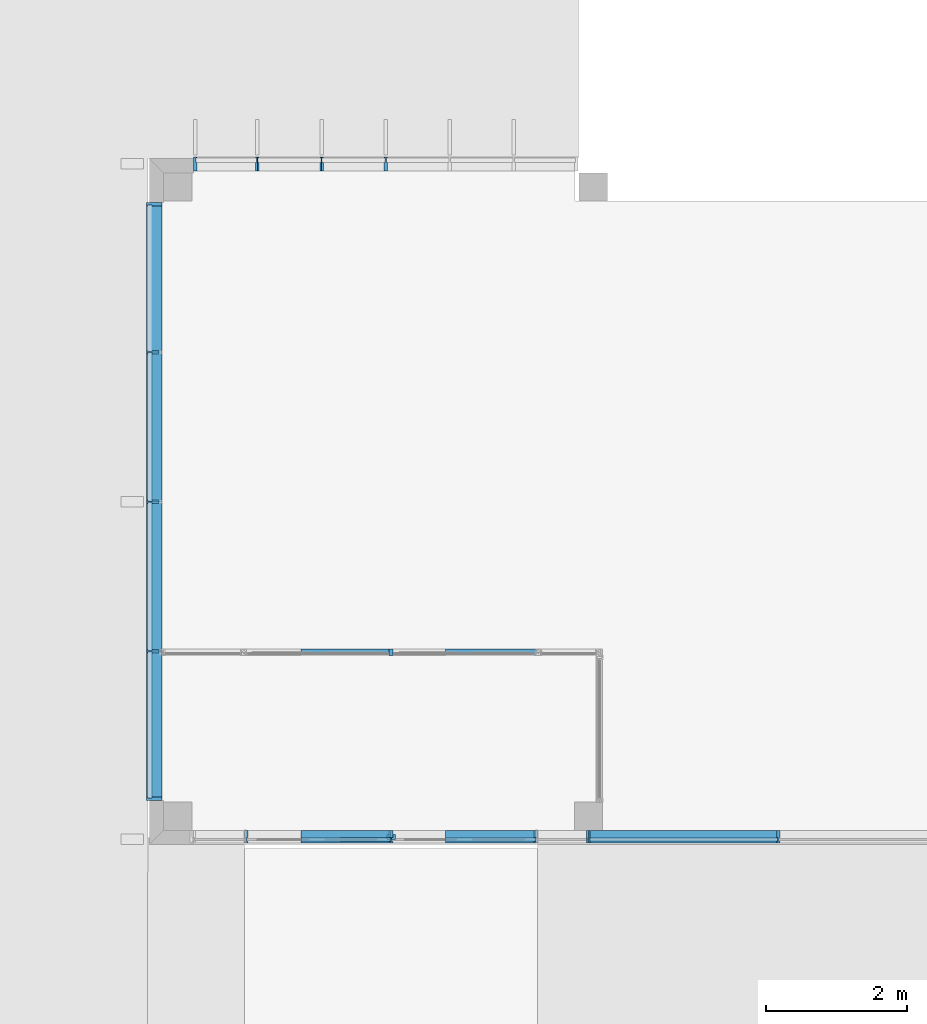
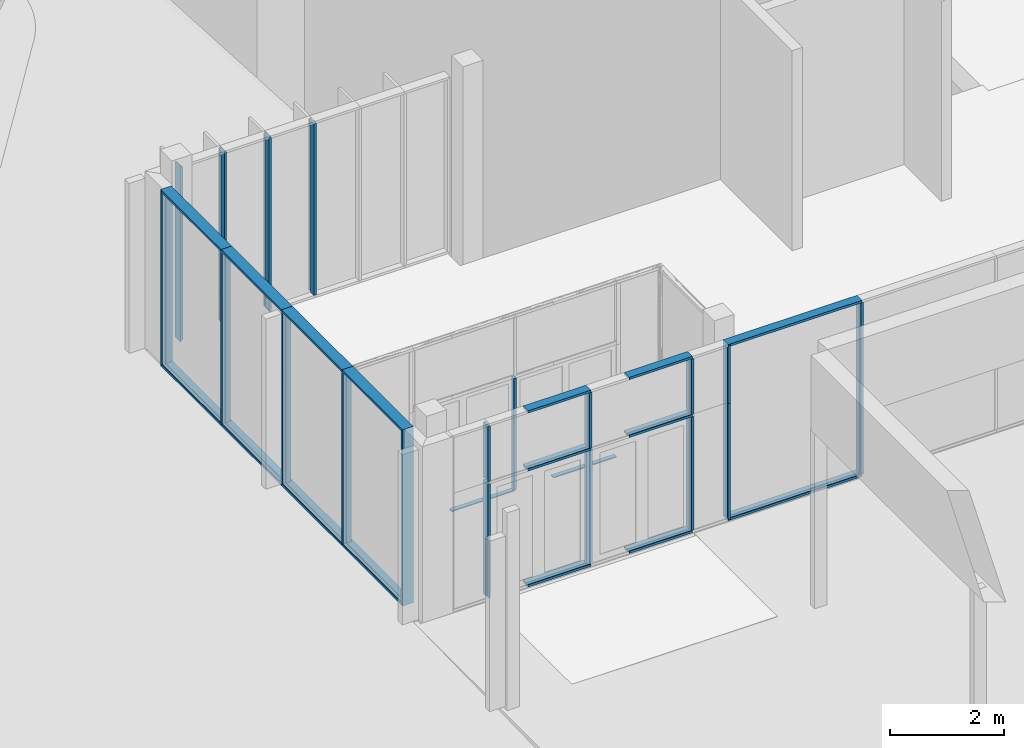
# One storey, part 4 of 69: 38 members, 5 elements without a shape of their own.
"""IFC2X3 building model written with IfcOpenShell, lengths in millimetres."""

import ifcopenshell
import ifcopenshell.guid

model = None  # the IFC model being written
_history = None  # IfcOwnerHistory: only IFC2X3 demands one
_inside = {}  # id of a spatial element -> (the spatial element, [elements in it])
_under = {}  # id of a project, library or spatial element -> (it, [spatial elements below it])
_declared = {}  # id of a project -> (the project, [libraries it declares])
_typed = {}  # id of a type object -> (the type object, [elements of that type])
_made_of = {}  # id of a material, layer set ... -> (it, [elements and type objects made of it])


def new_model(schema):
    """Start an empty IFC model of exactly this schema.

    Asked for "IFC4X3", IfcOpenShell would pick the latest addendum, in which some entities
    have other attributes; the version numbers below select the first issue.
    IFC2X3 requires an IfcOwnerHistory on every rooted entity: one is made here for all.
    """
    global model, _history
    if schema == "IFC4X3":
        model = ifcopenshell.file(schema_version=(4, 3, 0, 0))
    else:
        model = ifcopenshell.file(schema=schema)
    _inside.clear()
    _under.clear()
    _declared.clear()
    _typed.clear()
    _made_of.clear()
    _history = None
    if model.schema == "IFC2X3":
        org = make("IfcOrganization", Name="unknown")
        user = make(
            "IfcPersonAndOrganization",
            ThePerson=make("IfcPerson", FamilyName="unknown"),
            TheOrganization=org,
        )
        app = make(
            "IfcApplication",
            ApplicationDeveloper=org,
            Version="unknown",
            ApplicationFullName="unknown",
            ApplicationIdentifier="unknown",
        )
        _history = make(
            "IfcOwnerHistory",
            OwningUser=user,
            OwningApplication=app,
            ChangeAction="ADDED",
            CreationDate=0,
        )
    return model


def make(cls, **values):
    """One entity of the class cls with the attributes given. An attribute that is None is left unset."""
    return model.create_entity(
        cls, **{name: value for name, value in values.items() if value is not None}
    )


def entity(cls, *values):
    """Any entity or typed value of the class cls, its attributes in the order of the schema. None: left unset."""
    e = model.create_entity(cls)
    for i, value in enumerate(values):
        if value is not None:
            e[i] = value
    return e


def rooted(cls, **values):
    """An entity with a GlobalId (a new one), such as an element, a storey or a relation."""
    return make(cls, GlobalId=ifcopenshell.guid.new(), OwnerHistory=_history, **values)


def si_unit(unit_type, name, prefix=None):
    """IfcSIUnit, for example si_unit("LENGTHUNIT", "METRE", prefix="MILLI")."""
    return make("IfcSIUnit", UnitType=unit_type, Prefix=prefix, Name=name)


def converted_unit(unit_type, name, factor, base, dimensions=None, offset=None):
    """IfcConversionBasedUnit, such as the inch: factor (a typed value) times the base unit."""
    return make(
        "IfcConversionBasedUnit"
        if offset is None
        else "IfcConversionBasedUnitWithOffset",
        ConversionOffset=offset,
        Dimensions=None
        if dimensions is None
        else entity("IfcDimensionalExponents", *dimensions),
        UnitType=unit_type,
        Name=name,
        ConversionFactor=make(
            "IfcMeasureWithUnit", ValueComponent=factor, UnitComponent=base
        ),
    )


def derived_unit(unit_type, elements):
    """IfcDerivedUnit: a product of units, each with its exponent."""
    return make(
        "IfcDerivedUnit",
        Elements=[
            make("IfcDerivedUnitElement", Unit=unit, Exponent=power)
            for unit, power in elements
        ],
        UnitType=unit_type,
    )


def money_unit(currency):
    """IfcMonetaryUnit."""
    return make("IfcMonetaryUnit", Currency=currency)


def assignment(units):
    """IfcUnitAssignment: the units of a project."""
    return None if units is None else make("IfcUnitAssignment", Units=units)


def point(xyz):
    """IfcCartesianPoint."""
    return None if xyz is None else make("IfcCartesianPoint", Coordinates=xyz)


def direction(xyz):
    """IfcDirection."""
    return None if xyz is None else make("IfcDirection", DirectionRatios=xyz)


def frame(location, z_axis=None, x_axis=None):
    """IfcAxis2Placement3D, a coordinate frame: its origin and axes. An axis left out is left unset."""
    return make(
        "IfcAxis2Placement3D",
        Location=point(location),
        Axis=direction(z_axis),
        RefDirection=direction(x_axis),
    )


def origin_with_axes():
    """The frame at (0, 0, 0) with the z axis (0, 0, 1) and the x axis (1, 0, 0) written out."""
    return frame((0.0, 0.0, 0.0), z_axis=(0.0, 0.0, 1.0), x_axis=(1.0, 0.0, 0.0))


def place(relative_to, where):
    """IfcLocalPlacement: puts the frame where relative to a parent placement (None: the world)."""
    return make(
        "IfcLocalPlacement", PlacementRelTo=relative_to, RelativePlacement=where
    )


def context(
    kind, dimensions, precision=None, world=None, true_north=None, identifier=None
):
    """IfcGeometricRepresentationContext, for example the 3D "Model" context."""
    return make(
        "IfcGeometricRepresentationContext",
        ContextIdentifier=identifier,
        ContextType=kind,
        CoordinateSpaceDimension=dimensions,
        Precision=precision,
        WorldCoordinateSystem=world,
        TrueNorth=true_north,
    )


def subcontext(parent, identifier, kind, view, scale=None):
    """IfcGeometricRepresentationSubContext, for example "Body" below "Model"."""
    return make(
        "IfcGeometricRepresentationSubContext",
        ContextIdentifier=identifier,
        ContextType=kind,
        ParentContext=parent,
        TargetScale=scale,
        TargetView=view,
    )


def project(units=None, contexts=None):
    """IfcProject with its units and contexts."""
    return rooted(
        "IfcProject",
        Name="project",
        RepresentationContexts=contexts,
        UnitsInContext=assignment(units),
    )


def spatial(cls, under=None, at=None, **own):
    """A site, building, storey or space (cls), placed at a placement, below another one or the project."""
    s = rooted(cls, ObjectPlacement=at, **own)
    if under is not None:
        _under.setdefault(under.id(), (under, []))[1].append(s)
    return s


def polyline(points):
    """IfcPolyline through the points."""
    return make("IfcPolyline", Points=[point(p) for p in points])


def outline(outer, holes=None, kind="AREA"):
    """IfcArbitraryClosedProfileDef: a profile drawn as a closed curve; with holes, ...WithVoids."""
    if holes is None:
        return make("IfcArbitraryClosedProfileDef", ProfileType=kind, OuterCurve=outer)
    return make(
        "IfcArbitraryProfileDefWithVoids",
        ProfileType=kind,
        OuterCurve=outer,
        InnerCurves=holes,
    )


def extrude(swept, where, along, depth):
    """IfcExtrudedAreaSolid: the profile swept, set in the frame where, extruded along a direction by depth."""
    return make(
        "IfcExtrudedAreaSolid",
        SweptArea=swept,
        Position=where,
        ExtrudedDirection=direction(along),
        Depth=depth,
    )


def clip(a, b, op="DIFFERENCE"):
    """IfcBooleanClippingResult: the solid a cut by the half space b."""
    return make(
        "IfcBooleanClippingResult", Operator=op, FirstOperand=a, SecondOperand=b
    )


def halfspace(plane, agree):
    """IfcHalfSpaceSolid: all space on one side of the plane z = 0 of the frame plane."""
    return make(
        "IfcHalfSpaceSolid",
        BaseSurface=make("IfcPlane", Position=plane),
        AgreementFlag=agree,
    )


def faces_of(points, faces, orient=None, outer=None):
    """IfcFace entities. A face is a list of loops; a loop is a list of indices into points, from 0.

    orient and outer hold one flag for each loop. By default every Orientation is true, the
    first loop of a face is its IfcFaceOuterBound and the others are IfcFaceBound.
    """
    made = []
    for i, loops in enumerate(faces):
        bounds = []
        for j, loop in enumerate(loops):
            is_outer = j == 0 if outer is None else outer[i][j]
            bounds.append(
                make(
                    "IfcFaceOuterBound" if is_outer else "IfcFaceBound",
                    Bound=make("IfcPolyLoop", Polygon=[points[k] for k in loop]),
                    Orientation=True if orient is None else orient[i][j],
                )
            )
        made.append(make("IfcFace", Bounds=bounds))
    return made


def faceted_brep(points, faces, orient=None, outer=None, voids=None):
    """IfcFacetedBrep: a solid bounded by flat faces; with voids (closed shells), ...WithVoids."""
    shared = [point(p) for p in points]
    hull = make("IfcClosedShell", CfsFaces=faces_of(shared, faces, orient, outer))
    if voids is None:
        return make("IfcFacetedBrep", Outer=hull)
    return make(
        "IfcFacetedBrepWithVoids",
        Outer=hull,
        Voids=[
            make(cls, CfsFaces=faces_of(shared, fs, o, b)) for cls, fs, o, b in voids
        ],
    )


def shape(context_of_items, identifier, shape_type, items):
    """IfcShapeRepresentation: the items that make up one representation, for example the "Body"."""
    return make(
        "IfcShapeRepresentation",
        ContextOfItems=context_of_items,
        RepresentationIdentifier=identifier,
        RepresentationType=shape_type,
        Items=items,
    )


def source(mapping_origin, context_of_items, identifier, shape_type, items):
    """IfcRepresentationMap: a shape defined once, which mapped items show again and again."""
    return make(
        "IfcRepresentationMap",
        MappingOrigin=mapping_origin,
        MappedRepresentation=shape(context_of_items, identifier, shape_type, items),
    )


def transform(
    local_origin,
    x_axis=None,
    y_axis=None,
    z_axis=None,
    scale=None,
    scale2=None,
    scale3=None,
    uniform=True,
):
    """IfcCartesianTransformationOperator3D, or its non-uniform kind. x_axis, y_axis, z_axis: its Axis1, 2, 3."""
    if uniform:
        return make(
            "IfcCartesianTransformationOperator3D",
            Axis1=direction(x_axis),
            Axis2=direction(y_axis),
            LocalOrigin=point(local_origin),
            Scale=scale,
            Axis3=direction(z_axis),
        )
    return make(
        "IfcCartesianTransformationOperator3DnonUniform",
        Axis1=direction(x_axis),
        Axis2=direction(y_axis),
        LocalOrigin=point(local_origin),
        Scale=scale,
        Axis3=direction(z_axis),
        Scale2=scale2,
        Scale3=scale3,
    )


def mapped(mapping_source, mapping_target):
    """IfcMappedItem: shows the shape of a source again, moved by a transform."""
    return make(
        "IfcMappedItem", MappingSource=mapping_source, MappingTarget=mapping_target
    )


def material(Name=None, Category=None):
    """IfcMaterial."""
    return make("IfcMaterial", Name=Name, Category=Category)


def made_of(thing, what):
    """Note that an element or type object is made of a material, layer set ...; save() writes the relation."""
    if what is not None:
        _made_of.setdefault(what.id(), (what, []))[1].append(thing)
    return thing


def type_object(cls, material=None, **own):
    """A type object (cls), such as IfcWallType, which elements share."""
    return made_of(rooted(cls, **own), material)


def element(
    cls,
    number,
    at=None,
    inside=None,
    cuts=None,
    type_object=None,
    material=None,
    context=None,
    identifier="Body",
    shape_type=None,
    held_by="IfcProductDefinitionShape",
    body=None,
    shapes=None,
    **own,
):
    """One element of the class cls, such as IfcWall. Its Tag is "e" and its number.

    at: its placement. inside: the storey or other place that contains it. cuts: it is an
    opening in that element (IfcRelVoidsElement). A single representation is given by context,
    identifier, shape_type and body (its items); several are given by shapes. held_by: the class
    of the entity that holds the representations. save() writes the other relations.
    """
    e = rooted(cls, Tag="e%d" % number, ObjectPlacement=at, **own)
    if body is not None:
        shapes = [shape(context, identifier, shape_type, body)]
    if shapes is not None:
        e.Representation = make(held_by, Representations=shapes)
    if inside is not None:
        _inside.setdefault(inside.id(), (inside, []))[1].append(e)
    if cuts is not None:
        rooted(
            "IfcRelVoidsElement", RelatingBuildingElement=cuts, RelatedOpeningElement=e
        )
    if type_object is not None:
        _typed.setdefault(type_object.id(), (type_object, []))[1].append(e)
    return made_of(e, material)


def aggregate(whole, parts):
    """IfcRelAggregates: a whole, such as a stair, and the parts it consists of."""
    return rooted("IfcRelAggregates", RelatingObject=whole, RelatedObjects=parts)


def save(model, path):
    """Write the relations noted so far, then the file.

    IfcRelAggregates (storeys below a building ...), IfcRelContainedInSpatialStructure (elements
    in a storey), IfcRelDefinesByType, IfcRelAssociatesMaterial and IfcRelDeclares: one each for
    every whole, place, type object, material and project.
    """
    for whole, parts in _under.values():
        aggregate(whole, parts)
    for where, things in _inside.values():
        rooted(
            "IfcRelContainedInSpatialStructure",
            RelatedElements=things,
            RelatingStructure=where,
        )
    for kind, things in _typed.values():
        rooted("IfcRelDefinesByType", RelatedObjects=things, RelatingType=kind)
    for what, things in _made_of.values():
        rooted("IfcRelAssociatesMaterial", RelatedObjects=things, RelatingMaterial=what)
    for by, libraries in _declared.values():
        rooted("IfcRelDeclares", RelatingContext=by, RelatedDefinitions=libraries)
    model.write(path)


model = new_model("IFC2X3")

# Units and contexts
model_context = context("Model", 3, precision=0.01, world=origin_with_axes(), true_north=direction((0.0, 1.0)))
body_context = subcontext(model_context, "Body", "Model", "MODEL_VIEW")
ifc_project = project(units=[si_unit("LENGTHUNIT", "METRE", prefix="MILLI"), si_unit("AREAUNIT", "SQUARE_METRE"), si_unit("VOLUMEUNIT", "CUBIC_METRE"), converted_unit("PLANEANGLEUNIT", "DEGREE", entity("IfcPlaneAngleMeasure", 0.0174532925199), si_unit("PLANEANGLEUNIT", "RADIAN"), dimensions=[0, 0, 0, 0, 0, 0, 0]), si_unit("SOLIDANGLEUNIT", "STERADIAN"), money_unit("EUR"), converted_unit("TIMEUNIT", "Year", entity("IfcTimeMeasure", 31556926.0), si_unit("TIMEUNIT", "SECOND"), dimensions=[0, 0, 1, 0, 0, 0, 0]), si_unit("MASSUNIT", "GRAM", prefix="KILO"), si_unit("THERMODYNAMICTEMPERATUREUNIT", "DEGREE_CELSIUS"), si_unit("LUMINOUSINTENSITYUNIT", "LUMEN"), si_unit("ENERGYUNIT", "JOULE", prefix="MEGA"), derived_unit("THERMALCONDUCTANCEUNIT", [(si_unit("POWERUNIT", "WATT"), 1), (si_unit("LENGTHUNIT", "METRE"), -1), (si_unit("THERMODYNAMICTEMPERATUREUNIT", "KELVIN"), -1)]), derived_unit("SPECIFICHEATCAPACITYUNIT", [(si_unit("ENERGYUNIT", "JOULE"), 1), (si_unit("MASSUNIT", "GRAM", prefix="KILO"), -1), (si_unit("THERMODYNAMICTEMPERATUREUNIT", "KELVIN"), -1)]), derived_unit("MASSDENSITYUNIT", [(si_unit("MASSUNIT", "GRAM", prefix="KILO"), 1), (si_unit("VOLUMEUNIT", "CUBIC_METRE"), -1)])], contexts=[model_context])

# Site, building, storey
site_placement = place(None, origin_with_axes())
site = spatial("IfcSite", under=ifc_project, at=site_placement, Name="Puškini 31, Narva", CompositionType="ELEMENT")
building_placement = place(site_placement, origin_with_axes())
building = spatial("IfcBuilding", under=site, at=building_placement, Name="Narva Riigigümnaasium", CompositionType="ELEMENT")
storey_placement = place(building_placement, origin_with_axes())
storey = spatial("IfcBuildingStorey", under=building, at=storey_placement, Name="1.korrus 0.00", CompositionType="ELEMENT", Elevation=0.0)

# Curtain wall, members
curtain_wall_type = type_object("IfcCurtainWallType", Name="Curtain Wall Type", PredefinedType="NOTDEFINED")
curtain_wall_1_placement = place(storey_placement, frame((17902.9999992, 159574.999987, -0.000108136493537), z_axis=(0.0, 0.0, 1.0), x_axis=(1.0, 0.0, 0.0)))
curtain_wall_1 = element("IfcCurtainWall", 1, at=curtain_wall_1_placement, inside=storey, type_object=curtain_wall_type, Name="G-KLF-03")
ifc_material_1 = material(Name="ET-04_Alumiinium")
member_type_1 = type_object("IfcMemberType", Name="Boundary Frame 50 x 196", PredefinedType="MULLION")
shared_shape = source(origin_with_axes(), body_context, "Body", "Brep", [
    faceted_brep([(10.0, -31.0, 3740.00007447), (10.0, 31.0, 3740.00007447), (25.0, 31.0, 3710.00007447), (25.0, 46.0, 3710.00007447), (0.0, 46.0, 3760.00007447), (0.0, -150.0, 3760.00007447), (25.0, -150.0, 3710.00007447), (25.0, -31.0, 3710.00007447), (10.0, -31.0, 20.0), (10.0, 31.0, 20.0), (25.0, 31.0, 50.0), (25.0, 46.0, 50.0), (0.0, 46.0, 0.0), (-25.0, 46.0, 50.0), (-25.0, 46.0, 3710.00007447), (-25.0, 31.0, 3710.00007447), (-10.0, 31.0, 3740.00007447), (-10.0, -31.0, 3740.00007447), (-25.0, -31.0, 3710.00007447), (-25.0, -150.0, 3710.00007447), (0.0, -150.0, 0.0), (25.0, -150.0, 50.0), (-25.0, -150.0, 50.0), (25.0, -31.0, 50.0), (-25.0, -31.0, 50.0), (-10.0, -31.0, 20.0), (-10.0, 31.0, 20.0), (-25.0, 31.0, 50.0)], [[[0, 1, 2, 3, 4, 5, 6, 7]], [[0, 8, 9, 1]], [[1, 9, 10, 2]], [[10, 11, 3, 2]], [[12, 13, 14, 4, 3, 11]], [[5, 4, 14, 15, 16, 17, 18, 19]], [[20, 21, 6, 5, 19, 22]], [[7, 6, 21, 23]], [[7, 23, 8, 0]], [[9, 8, 23, 21, 20, 12, 11, 10]], [[13, 12, 20, 22, 24, 25, 26, 27]], [[27, 15, 14, 13]], [[15, 27, 26, 16]], [[17, 16, 26, 25]], [[18, 17, 25, 24]], [[18, 24, 22, 19]]]),
])
member_1_placement = place(curtain_wall_1_placement, frame((-452.999999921, 0.0, 0.0), z_axis=(0.0, 0.0, 1.0), x_axis=(-1.0, 0.0, 0.0)))
member_1 = element("IfcMember", 2, at=member_1_placement, type_object=member_type_1, material=ifc_material_1, Name="KLF raam", ObjectType="MULLION", context=body_context, shape_type="MappedRepresentation", body=[
    mapped(shared_shape, transform((0.0, 0.0, 0.0), x_axis=(-1.0, 0.0, 0.0), y_axis=(0.0, -1.0, 0.0), z_axis=(0.0, 0.0, 1.0))),
])
member_2_placement = place(curtain_wall_1_placement, frame((452.999999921, 0.0, 0.0), z_axis=(0.0, 0.0, 1.0), x_axis=(-1.0, 0.0, 0.0)))
member_2 = element("IfcMember", 3, at=member_2_placement, type_object=member_type_1, material=ifc_material_1, Name="KLF raam", ObjectType="MULLION", context=body_context, shape_type="MappedRepresentation", body=[
    mapped(shared_shape, transform((0.0, 0.0, 0.0), x_axis=(-1.0, 0.0, 0.0), y_axis=(0.0, -1.0, 0.0), z_axis=(0.0, 0.0, 1.0))),
])

curtain_wall_2_placement = place(storey_placement, frame((18229.9603698, 152620.000001, -0.397158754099), z_axis=(0.0, 0.0, 1.0), x_axis=(1.0, 0.0, 0.0)))
curtain_wall_2 = element("IfcCurtainWall", 4, at=curtain_wall_2_placement, inside=storey, type_object=curtain_wall_type, Name="G-KLF-01-1")
member_type_2 = type_object("IfcMemberType", Name="20 x 90", PredefinedType="MULLION")
member_3_placement = place(curtain_wall_2_placement, frame((1108.72326841, 0.0, 0.0), z_axis=(-1.0, 0.0, 0.0), x_axis=(0.0, 0.0, 1.0)))
member_3 = element("IfcMember", 5, at=member_3_placement, type_object=member_type_2, material=ifc_material_1, Name="G-SKLF-01-raam", ObjectType="MULLION", context=body_context, shape_type="SweptSolid", body=[
    extrude(outline(polyline([(45.0, -20.0), (45.0, 0.0), (-45.0, 0.0), (-45.0, -20.0), (45.0, -20.0)])), frame((0.0, 0.0, 0.0), z_axis=(0.0, 0.0, 1.0), x_axis=(0.0, 1.0, 0.0)), (0.0, 0.0, 1.0), 1276.31640089),
])
member_4_placement = place(curtain_wall_2_placement, frame((3158.7233041, 0.0, 0.0), z_axis=(-1.0, 0.0, 0.0), x_axis=(0.0, 0.0, 1.0)))
member_4 = element("IfcMember", 6, at=member_4_placement, type_object=member_type_2, material=ifc_material_1, Name="G-SKLF-01-raam", ObjectType="MULLION", context=body_context, shape_type="SweptSolid", body=[
    extrude(outline(polyline([(45.0, -20.0), (45.0, 0.0), (-45.0, 0.0), (-45.0, -20.0), (45.0, -20.0)])), frame((0.0, 0.0, 0.0), z_axis=(0.0, 0.0, 1.0), x_axis=(0.0, 1.0, 0.0)), (0.0, 0.0, 1.0), 1276.31640089),
])

# Curtain wall, member
curtain_wall_3_placement = place(storey_placement, frame((28873.394571, 149970.00001, 0.0), z_axis=(0.0, 0.0, 1.0), x_axis=(1.0, 0.0, 0.0)))
curtain_wall_3 = element("IfcCurtainWall", 7, at=curtain_wall_3_placement, inside=storey, type_object=curtain_wall_type, Name="G-KLF-01b")
member_type_3 = type_object("IfcMemberType", Name="Mullion Frame 50 x 176", PredefinedType="MULLION")
member_5_placement = place(curtain_wall_3_placement, frame((-4060.8162833, 0.0, 0.0), z_axis=(0.0, 0.0, 1.0), x_axis=(1.0, 0.0, 0.0)))
member_5 = element("IfcMember", 8, at=member_5_placement, type_object=member_type_3, material=ifc_material_1, Name="Klaasfassaadi raam", ObjectType="MULLION", context=body_context, shape_type="SweptSolid", body=[
    extrude(outline(polyline([(-10.0, 29.0), (-10.0, -29.0), (-25.0, -29.0), (-25.0, -46.0), (25.0, -46.0), (25.0, -29.0), (10.0, -29.0), (10.0, 29.0), (25.0, 29.0), (25.0, 130.0), (-25.0, 130.0), (-25.0, 29.0), (-10.0, 29.0)])), frame((0.0, 0.0, 50.0), z_axis=(0.0, 0.0, 1.0), x_axis=(1.0, 0.0, 0.0)), (0.0, 0.0, 1.0), 3660.0),
])

# Curtain wall, members
curtain_wall_4_placement = place(storey_placement, frame((18232.2449236, 149970.00001, 0.0), z_axis=(0.0, 0.0, 1.0), x_axis=(1.0, 0.0, 0.0)))
curtain_wall_4 = element("IfcCurtainWall", 9, at=curtain_wall_4_placement, inside=storey, type_object=curtain_wall_type, Name="G-KLF-01a")
member_6_placement = place(curtain_wall_4_placement, frame((1106.43873187, 0.0, 2499.9999757), z_axis=(-6.30092086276e-09, 0.0, 1.0), x_axis=(1.0, 0.0, 6.30092086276e-09)))
member_6 = element("IfcMember", 10, at=member_6_placement, type_object=member_type_3, material=ifc_material_1, Name="Klaasfassaadi raam", ObjectType="MULLION", context=body_context, shape_type="SweptSolid", body=[
    extrude(outline(polyline([(-9.99999237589, 29.0), (-9.99999237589, -29.0), (-24.9999923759, -29.0), (-24.9999923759, -46.0), (25.0000076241, -46.0), (25.0000076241, -29.0), (10.0000076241, -29.0), (10.0000076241, 29.0), (25.0000076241, 29.0), (25.0000076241, 130.0), (-24.9999923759, 130.0), (-24.9999923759, 29.0), (-9.99999237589, 29.0)])), frame((0.0, 0.0, 24.9999998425), z_axis=(0.0, 0.0, 1.0), x_axis=(1.0, 0.0, -6.30092086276e-09)), (0.0, 0.0, 1.0), 1185.00002461),
])
member_7_placement = place(curtain_wall_4_placement, frame((-943.561236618, 0.0, 2499.99993143), z_axis=(0.0, 0.0, 1.0), x_axis=(1.0, 0.0, 0.0)))
member_7 = element("IfcMember", 11, at=member_7_placement, type_object=member_type_3, material=ifc_material_1, Name="Klaasfassaadi raam", ObjectType="MULLION", context=body_context, shape_type="SweptSolid", body=[
    extrude(outline(polyline([(-10.0, 29.0), (-10.0, -29.0), (-25.0, -29.0), (-25.0, -46.0), (25.0, -46.0), (25.0, -29.0), (10.0, -29.0), (10.0, 29.0), (25.0, 29.0), (25.0, 130.0), (-25.0, 130.0), (-25.0, 29.0), (-10.0, 29.0)])), frame((0.0, 0.0, 25.0), z_axis=(0.0, 0.0, 1.0), x_axis=(1.0, 0.0, 0.0)), (0.0, 0.0, 1.0), 1185.0000243),
])
member_8_placement = place(curtain_wall_4_placement, frame((3156.43875639, 0.0, 0.0), z_axis=(0.0, 0.0, 1.0), x_axis=(1.0, 0.0, 0.0)))
member_8 = element("IfcMember", 12, at=member_8_placement, type_object=member_type_3, material=ifc_material_1, Name="Klaasfassaadi raam", ObjectType="MULLION", context=body_context, shape_type="SweptSolid", body=[
    extrude(outline(polyline([(-10.0, 29.0), (-10.0, -29.0), (-25.0, -29.0), (-25.0, -46.0), (25.0, -46.0), (25.0, -29.0), (10.0, -29.0), (10.0, 29.0), (25.0, 29.0), (25.0, 130.0), (-25.0, 130.0), (-25.0, 29.0), (-10.0, 29.0)])), frame((0.0, 0.0, 50.0), z_axis=(0.0, 0.0, 1.0), x_axis=(1.0, 0.0, 0.0)), (0.0, 0.0, 1.0), 2424.9999757),
])
member_9_placement = place(curtain_wall_4_placement, frame((3156.43875639, 0.0, 2499.99996706), z_axis=(-6.24391104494e-09, 0.0, 1.0), x_axis=(1.0, 0.0, 6.24391104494e-09)))
member_9 = element("IfcMember", 13, at=member_9_placement, type_object=member_type_3, material=ifc_material_1, Name="Klaasfassaadi raam", ObjectType="MULLION", context=body_context, shape_type="SweptSolid", body=[
    extrude(outline(polyline([(-9.99999244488, 29.0), (-9.99999244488, -29.0), (-24.9999924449, -29.0), (-24.9999924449, -46.0), (25.0000075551, -46.0), (25.0000075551, -29.0), (10.0000075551, -29.0), (10.0000075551, 29.0), (25.0000075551, 29.0), (25.0000075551, 130.0), (-24.9999924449, 130.0), (-24.9999924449, 29.0), (-9.99999244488, 29.0)])), frame((0.0, 0.0, 24.9999998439), z_axis=(0.0, 0.0, 1.0), x_axis=(1.0, 0.0, -6.24391104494e-09)), (0.0, 0.0, 1.0), 1185.00002461),
])
member_10_placement = place(curtain_wall_4_placement, frame((-943.561236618, 0.0, 0.0), z_axis=(0.0, 0.0, 1.0), x_axis=(1.0, 0.0, 0.0)))
member_10 = element("IfcMember", 14, at=member_10_placement, type_object=member_type_3, material=ifc_material_1, Name="Klaasfassaadi raam", ObjectType="MULLION", context=body_context, shape_type="SweptSolid", body=[
    extrude(outline(polyline([(-10.0, 29.0), (-10.0, -29.0), (-25.0, -29.0), (-25.0, -46.0), (25.0, -46.0), (25.0, -29.0), (10.0, -29.0), (10.0, 29.0), (25.0, 29.0), (25.0, 130.0), (-25.0, 130.0), (-25.0, 29.0), (-10.0, 29.0)])), frame((0.0, 0.0, 50.0), z_axis=(0.0, 0.0, 1.0), x_axis=(1.0, 0.0, 0.0)), (0.0, 0.0, 1.0), 2424.9999757),
])

# Member
member_type_4 = type_object("IfcMemberType", Name="Boundary Frame 50 x 176", PredefinedType="MULLION")
member_11_placement = place(curtain_wall_3_placement, frame((-4060.8162833, 0.0, 0.0), z_axis=(-1.0, 0.0, 0.0), x_axis=(0.0, 0.0, 1.0)))
member_11 = element("IfcMember", 15, at=member_11_placement, type_object=member_type_4, material=ifc_material_1, Name="Klaasfassaadi raam", ObjectType="MULLION", context=body_context, shape_type="Clipping", body=[
    clip(extrude(outline(polyline([(29.0, -35.0), (29.0, -50.0), (130.0, -50.0), (130.0, 0.0), (-46.0, 0.0), (-46.0, -50.0), (-29.0, -50.0), (-29.0, -35.0), (29.0, -35.0)])), frame((0.0, 0.0, 0.0), z_axis=(0.0, 0.0, 1.0), x_axis=(0.0, 1.0, 0.0)), (0.0, 0.0, 1.0), 2707.21085553), halfspace(frame((1353.60542777, 0.0, 1353.60542777), z_axis=(-0.707106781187, 0.0, -0.707106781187), x_axis=(0.0, 1.0, 0.0)), True)),
])

member_12_placement = place(curtain_wall_3_placement, frame((-6768.02713883, 0.0, 0.0), z_axis=(0.0, 0.0, 1.0), x_axis=(1.0, 0.0, 0.0)))
member_12 = element("IfcMember", 16, at=member_12_placement, type_object=member_type_4, material=ifc_material_1, Name="Klaasfassaadi raam", ObjectType="MULLION", context=body_context, shape_type="Clipping", body=[
    clip(clip(extrude(outline(polyline([(35.0, 29.0), (50.0, 29.0), (50.0, 130.0), (0.0, 130.0), (0.0, -46.0), (50.0, -46.0), (50.0, -29.0), (35.0, -29.0), (35.0, 29.0)])), origin_with_axes(), (0.0, 0.0, 1.0), 3760.0), halfspace(frame((1880.0, 0.0, 1880.0), z_axis=(-0.707106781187, 0.0, -0.707106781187), x_axis=(0.0, 1.0, 0.0)), True)), halfspace(frame((0.0, 0.0, 0.0), z_axis=(-0.707106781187, 0.0, 0.707106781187), x_axis=(0.0, -1.0, 0.0)), True)),
])

member_13_placement = place(curtain_wall_3_placement, frame((-4060.8162833, 0.0, 3760.0), z_axis=(-1.0, 0.0, 0.0), x_axis=(0.0, 0.0, 1.0)))
member_13 = element("IfcMember", 17, at=member_13_placement, type_object=member_type_4, material=ifc_material_1, Name="Klaasfassaadi raam", ObjectType="MULLION", context=body_context, shape_type="Clipping", body=[
    clip(extrude(outline(polyline([(29.0, 35.0), (-29.0, 35.0), (-29.0, 50.0), (-46.0, 50.0), (-46.0, 0.0), (130.0, 0.0), (130.0, 50.0), (29.0, 50.0), (29.0, 35.0)])), frame((0.0, 0.0, 0.0), z_axis=(0.0, 0.0, 1.0), x_axis=(0.0, 1.0, 0.0)), (0.0, 0.0, 1.0), 2707.21085553), halfspace(frame((-1353.60542777, 0.0, 1353.60542777), z_axis=(0.707106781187, 0.0, -0.707106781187), x_axis=(0.0, 1.0, 0.0)), True)),
])

aggregate(curtain_wall_3, [member_11, member_12, member_13, member_5])

member_14_placement = place(curtain_wall_4_placement, frame((3156.43875639, 0.0, 0.0), z_axis=(-1.0, 0.0, 0.0), x_axis=(0.0, 0.0, 1.0)))
member_14 = element("IfcMember", 18, at=member_14_placement, type_object=member_type_4, material=ifc_material_1, Name="Klaasfassaadi raam", ObjectType="MULLION", context=body_context, shape_type="SweptSolid", body=[
    extrude(outline(polyline([(29.0, -35.0), (29.0, -50.0), (130.0, -50.0), (130.0, 0.0), (-46.0, 0.0), (-46.0, -50.0), (-29.0, -50.0), (-29.0, -35.0), (29.0, -35.0)])), frame((0.0, 0.0, 0.0), z_axis=(0.0, 0.0, 1.0), x_axis=(0.0, 1.0, 0.0)), (0.0, 0.0, 1.0), 1276.31624971),
])

member_15_placement = place(curtain_wall_4_placement, frame((3156.43874852, 0.0, 3760.0), z_axis=(-1.0, 0.0, 0.0), x_axis=(0.0, 0.0, 1.0)))
member_15 = element("IfcMember", 19, at=member_15_placement, type_object=member_type_4, material=ifc_material_1, Name="Klaasfassaadi raam", ObjectType="MULLION", context=body_context, shape_type="SweptSolid", body=[
    extrude(outline(polyline([(29.0, 35.0), (-29.0, 35.0), (-29.0, 50.0), (-46.0, 50.0), (-46.0, 0.0), (130.0, 0.0), (130.0, 50.0), (29.0, 50.0), (29.0, 35.0)])), frame((0.0, 0.0, 0.0), z_axis=(0.0, 0.0, 1.0), x_axis=(0.0, 1.0, 0.0)), (0.0, 0.0, 1.0), 1276.31624184),
])

member_16_placement = place(curtain_wall_4_placement, frame((3923.12250863, 0.0, 2500.00059267), z_axis=(0.0, 0.0, 1.0), x_axis=(1.0, 0.0, 0.0)))
member_16 = element("IfcMember", 20, at=member_16_placement, type_object=member_type_4, material=ifc_material_1, Name="Klaasfassaadi raam", ObjectType="MULLION", context=body_context, shape_type="Clipping", body=[
    clip(extrude(outline(polyline([(-35.0, 29.0), (-35.0, -29.0), (-50.0, -29.0), (-50.0, -46.0), (0.0, -46.0), (0.0, 130.0), (-50.0, 130.0), (-50.0, 29.0), (-35.0, 29.0)])), origin_with_axes(), (0.0, 0.0, 1.0), 1259.99940733), halfspace(frame((-629.999703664, 0.0, 629.999703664), z_axis=(0.707106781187, 0.0, -0.707106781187), x_axis=(0.0, 1.0, 0.0)), True)),
])

member_17_placement = place(curtain_wall_4_placement, frame((1106.43873187, 0.0, 0.0), z_axis=(-1.0, 0.0, 0.0), x_axis=(0.0, 0.0, 1.0)))
member_17 = element("IfcMember", 21, at=member_17_placement, type_object=member_type_4, material=ifc_material_1, Name="Klaasfassaadi raam", ObjectType="MULLION", context=body_context, shape_type="SweptSolid", body=[
    extrude(outline(polyline([(29.0, -35.0), (29.0, -50.0), (130.0, -50.0), (130.0, 0.0), (-46.0, 0.0), (-46.0, -50.0), (-29.0, -50.0), (-29.0, -35.0), (29.0, -35.0)])), frame((0.0, 0.0, 0.0), z_axis=(0.0, 0.0, 1.0), x_axis=(0.0, 1.0, 0.0)), (0.0, 0.0, 1.0), 1269.31622713),
])

member_18_placement = place(curtain_wall_4_placement, frame((1106.43872393, 0.0, 3760.0), z_axis=(-1.0, 0.0, 0.0), x_axis=(0.0, 0.0, 1.0)))
member_18 = element("IfcMember", 22, at=member_18_placement, type_object=member_type_4, material=ifc_material_1, Name="Klaasfassaadi raam", ObjectType="MULLION", context=body_context, shape_type="SweptSolid", body=[
    extrude(outline(polyline([(29.0, 35.0), (-29.0, 35.0), (-29.0, 50.0), (-46.0, 50.0), (-46.0, 0.0), (130.0, 0.0), (130.0, 50.0), (29.0, 50.0), (29.0, 35.0)])), frame((0.0, 0.0, 0.0), z_axis=(0.0, 0.0, 1.0), x_axis=(0.0, 1.0, 0.0)), (0.0, 0.0, 1.0), 1269.31621919),
])

member_19_placement = place(curtain_wall_4_placement, frame((3156.43875639, 0.0, 2499.99996706), z_axis=(-1.0, 0.0, 1.59834575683e-08), x_axis=(1.59834575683e-08, 0.0, 1.0)))
member_19 = element("IfcMember", 23, at=member_19_placement, type_object=member_type_4, material=ifc_material_1, Name="Klaasfassaadi raam", ObjectType="MULLION", context=body_context, shape_type="SweptSolid", body=[
    extrude(outline(polyline([(29.0, 10.0000203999), (-29.0, 10.0000203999), (-29.0, 25.0000203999), (-46.0, 25.0000203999), (-46.0, -24.9999796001), (-29.0, -24.9999796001), (-29.0, -9.99997960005), (29.0, -9.99997960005), (29.0, -24.9999796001), (130.0, -24.9999796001), (130.0, 25.0000203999), (29.0, 25.0000203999), (29.0, 10.0000203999)])), frame((0.0, 0.0, -2.11991206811e-05), z_axis=(0.0, 0.0, 1.0), x_axis=(0.0, 1.0, 0.0)), (0.0, 0.0, 1.0), 1276.31627208),
])

member_20_placement = place(curtain_wall_4_placement, frame((1106.43873187, 0.0, 2499.9999757), z_axis=(-1.0, 0.0, -3.48782737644e-08), x_axis=(-3.48782737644e-08, 0.0, 1.0)))
member_20 = element("IfcMember", 24, at=member_20_placement, type_object=member_type_4, material=ifc_material_1, Name="Klaasfassaadi raam", ObjectType="MULLION", context=body_context, shape_type="SweptSolid", body=[
    extrude(outline(polyline([(29.0, 9.99995572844), (-29.0, 9.99995572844), (-29.0, 24.9999557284), (-46.0, 24.9999557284), (-46.0, -25.0000442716), (-29.0, -25.0000442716), (-29.0, -10.0000442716), (29.0, -10.0000442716), (29.0, -25.0000442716), (130.0, -25.0000442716), (130.0, 24.9999557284), (29.0, 24.9999557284), (29.0, 9.99995572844)])), frame((0.0, 0.0, -1.36401467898e-06), z_axis=(0.0, 0.0, 1.0), x_axis=(0.0, 1.0, 0.0)), (0.0, 0.0, 1.0), 1269.31623024),
])

member_21_placement = place(curtain_wall_4_placement, frame((3923.12250863, 0.0, 0.0), z_axis=(0.0, 0.0, 1.0), x_axis=(1.0, 0.0, 0.0)))
member_21 = element("IfcMember", 25, at=member_21_placement, type_object=member_type_4, material=ifc_material_1, Name="Klaasfassaadi raam", ObjectType="MULLION", context=body_context, shape_type="Clipping", body=[
    clip(extrude(outline(polyline([(-35.0, 29.0), (-35.0, -29.0), (-50.0, -29.0), (-50.0, -46.0), (0.0, -46.0), (0.0, 130.0), (-50.0, 130.0), (-50.0, 29.0), (-35.0, 29.0)])), origin_with_axes(), (0.0, 0.0, 1.0), 2500.00059267), halfspace(frame((0.0, 0.0, 0.0), z_axis=(0.707106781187, 0.0, 0.707106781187), x_axis=(0.0, -1.0, 0.0)), True)),
])

ifc_material_2 = material(Name="Alumiiniumprofiil")
member_type_5 = type_object("IfcMemberType", Name="50 x 90", PredefinedType="MULLION")
member_22_placement = place(curtain_wall_2_placement, frame((1108.72326841, 0.0, 0.0), z_axis=(0.0, 0.0, 1.0), x_axis=(1.0, 0.0, 0.0)))
member_22 = element("IfcMember", 26, at=member_22_placement, type_object=member_type_5, material=ifc_material_2, Name="G-SKLF-01-raam", ObjectType="MULLION", context=body_context, shape_type="SweptSolid", body=[
    extrude(outline(polyline([(25.0, 45.0), (-25.0, 45.0), (-25.0, -45.0), (25.0, -45.0), (25.0, 45.0)])), frame((0.0, 0.0, 20.0), z_axis=(0.0, 0.0, 1.0), x_axis=(1.0, 0.0, 0.0)), (0.0, 0.0, 1.0), 2380.00003439),
])

aggregate(curtain_wall_2, [member_3, member_4, member_22])

# Curtain wall, members
curtain_wall_5_placement = place(storey_placement, frame((15928.9999994, 157711.00001, -0.000109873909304), z_axis=(0.0, 0.0, 1.0), x_axis=(1.0, 0.0, 0.0)))
curtain_wall_5 = element("IfcCurtainWall", 27, at=curtain_wall_5_placement, inside=storey, type_object=curtain_wall_type, Name="G-KLF-02")
member_type_6 = type_object("IfcMemberType", Name="Boundary Frame 50 x 216", PredefinedType="MULLION")
member_23_placement = place(curtain_wall_5_placement, frame((0.0, -2961.0, 0.0), z_axis=(0.0, -1.0, 0.0), x_axis=(0.0, 0.0, 1.0)))
member_23 = element("IfcMember", 28, at=member_23_placement, type_object=member_type_6, material=ifc_material_1, Name="klaasfassaadi raam", ObjectType="MULLION", context=body_context, shape_type="SweptSolid", body=[
    extrude(outline(polyline([(-31.0, -35.0), (31.0, -35.0), (31.0, -50.0), (46.0, -50.0), (46.0, 0.0), (-170.0, 0.0), (-170.0, -50.0), (-31.0, -50.0), (-31.0, -35.0)])), frame((0.0, 0.0, 0.0), z_axis=(0.0, 0.0, 1.0), x_axis=(0.0, 1.0, 0.0)), (0.0, 0.0, 1.0), 2115.0),
])
member_24_placement = place(curtain_wall_5_placement, frame((0.0, 1269.0, 0.0), z_axis=(0.0, -1.0, 0.0), x_axis=(0.0, 0.0, 1.0)))
member_24 = element("IfcMember", 29, at=member_24_placement, type_object=member_type_6, material=ifc_material_1, Name="klaasfassaadi raam", ObjectType="MULLION", context=body_context, shape_type="Clipping", body=[
    clip(extrude(outline(polyline([(-31.0, -35.0), (31.0, -35.0), (31.0, -50.0), (46.0, -50.0), (46.0, 0.0), (-170.0, 0.0), (-170.0, -50.0), (-31.0, -50.0), (-31.0, -35.0)])), frame((0.0, 0.0, 0.0), z_axis=(0.0, 0.0, 1.0), x_axis=(0.0, 1.0, 0.0)), (0.0, 0.0, 1.0), 2115.0), halfspace(frame((0.0, 0.0, 0.0), z_axis=(-0.707106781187, 0.0, 0.707106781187), x_axis=(0.0, -1.0, 0.0)), True)),
])
member_25_placement = place(curtain_wall_5_placement, frame((0.0, -846.0, 0.0), z_axis=(0.0, -1.0, 0.0), x_axis=(0.0, 0.0, 1.0)))
member_25 = element("IfcMember", 30, at=member_25_placement, type_object=member_type_6, material=ifc_material_1, Name="klaasfassaadi raam", ObjectType="MULLION", context=body_context, shape_type="SweptSolid", body=[
    extrude(outline(polyline([(-31.0, -35.0), (31.0, -35.0), (31.0, -50.0), (46.0, -50.0), (46.0, 0.0), (-170.0, 0.0), (-170.0, -50.0), (-31.0, -50.0), (-31.0, -35.0)])), frame((0.0, 0.0, 0.0), z_axis=(0.0, 0.0, 1.0), x_axis=(0.0, 1.0, 0.0)), (0.0, 0.0, 1.0), 2115.0),
])
member_26_placement = place(curtain_wall_5_placement, frame((0.0, 1269.0, 0.0), z_axis=(0.0, 0.0, 1.0), x_axis=(0.0, 1.0, 0.0)))
member_26 = element("IfcMember", 31, at=member_26_placement, type_object=member_type_6, material=ifc_material_1, Name="klaasfassaadi raam", ObjectType="MULLION", context=body_context, shape_type="Clipping", body=[
    clip(clip(extrude(outline(polyline([(31.0, -35.0), (31.0, -50.0), (170.0, -50.0), (170.0, 0.0), (-46.0, 0.0), (-46.0, -50.0), (-31.0, -50.0), (-31.0, -35.0), (31.0, -35.0)])), frame((0.0, 0.0, 0.0), z_axis=(0.0, 0.0, 1.0), x_axis=(0.0, -1.0, 0.0)), (0.0, 0.0, 1.0), 3760.00010987), halfspace(frame((-1880.00005494, 0.0, 1880.00005494), z_axis=(0.707106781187, 0.0, -0.707106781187), x_axis=(0.0, 1.0, 0.0)), True)), halfspace(frame((0.0, 0.0, 0.0), z_axis=(0.707106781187, 0.0, 0.707106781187), x_axis=(0.0, -1.0, 0.0)), True)),
])
member_27_placement = place(curtain_wall_5_placement, frame((0.0, -5076.0, 0.0), z_axis=(0.0, -1.0, 0.0), x_axis=(0.0, 0.0, 1.0)))
member_27 = element("IfcMember", 32, at=member_27_placement, type_object=member_type_6, material=ifc_material_1, Name="klaasfassaadi raam", ObjectType="MULLION", context=body_context, shape_type="Clipping", body=[
    clip(extrude(outline(polyline([(-31.0, -35.0), (31.0, -35.0), (31.0, -50.0), (46.0, -50.0), (46.0, 0.0), (-170.0, 0.0), (-170.0, -50.0), (-31.0, -50.0), (-31.0, -35.0)])), frame((0.0, 0.0, 0.0), z_axis=(0.0, 0.0, 1.0), x_axis=(0.0, 1.0, 0.0)), (0.0, 0.0, 1.0), 2115.0), halfspace(frame((1057.5, 0.0, 1057.5), z_axis=(-0.707106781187, 0.0, -0.707106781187), x_axis=(0.0, 1.0, 0.0)), True)),
])
member_28_placement = place(curtain_wall_5_placement, frame((0.0, 1269.0, 3760.00010987), z_axis=(0.0, -1.0, 0.0), x_axis=(0.0, 0.0, 1.0)))
member_28 = element("IfcMember", 33, at=member_28_placement, type_object=member_type_6, material=ifc_material_1, Name="klaasfassaadi raam", ObjectType="MULLION", context=body_context, shape_type="Clipping", body=[
    clip(extrude(outline(polyline([(-31.0, 35.0), (-31.0, 50.0), (-170.0, 50.0), (-170.0, 0.0), (46.0, 0.0), (46.0, 50.0), (31.0, 50.0), (31.0, 35.0), (-31.0, 35.0)])), frame((0.0, 0.0, 0.0), z_axis=(0.0, 0.0, 1.0), x_axis=(0.0, 1.0, 0.0)), (0.0, 0.0, 1.0), 2115.0), halfspace(frame((0.0, 0.0, 0.0), z_axis=(0.707106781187, 0.0, 0.707106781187), x_axis=(0.0, -1.0, 0.0)), True)),
])
member_29_placement = place(curtain_wall_5_placement, frame((0.0, -846.0, 3760.00010987), z_axis=(0.0, -1.0, 0.0), x_axis=(0.0, 0.0, 1.0)))
member_29 = element("IfcMember", 34, at=member_29_placement, type_object=member_type_6, material=ifc_material_1, Name="klaasfassaadi raam", ObjectType="MULLION", context=body_context, shape_type="SweptSolid", body=[
    extrude(outline(polyline([(-31.0, 35.0), (-31.0, 50.0), (-170.0, 50.0), (-170.0, 0.0), (46.0, 0.0), (46.0, 50.0), (31.0, 50.0), (31.0, 35.0), (-31.0, 35.0)])), frame((0.0, 0.0, 0.0), z_axis=(0.0, 0.0, 1.0), x_axis=(0.0, 1.0, 0.0)), (0.0, 0.0, 1.0), 2115.0),
])
member_30_placement = place(curtain_wall_5_placement, frame((0.0, -2961.0, 3760.00010987), z_axis=(0.0, -1.0, 0.0), x_axis=(0.0, 0.0, 1.0)))
member_30 = element("IfcMember", 35, at=member_30_placement, type_object=member_type_6, material=ifc_material_1, Name="klaasfassaadi raam", ObjectType="MULLION", context=body_context, shape_type="SweptSolid", body=[
    extrude(outline(polyline([(-31.0, 35.0), (-31.0, 50.0), (-170.0, 50.0), (-170.0, 0.0), (46.0, 0.0), (46.0, 50.0), (31.0, 50.0), (31.0, 35.0), (-31.0, 35.0)])), frame((0.0, 0.0, 0.0), z_axis=(0.0, 0.0, 1.0), x_axis=(0.0, 1.0, 0.0)), (0.0, 0.0, 1.0), 2115.0),
])
member_31_placement = place(curtain_wall_5_placement, frame((0.0, -5076.0, 3760.00010987), z_axis=(0.0, -1.0, 0.0), x_axis=(0.0, 0.0, 1.0)))
member_31 = element("IfcMember", 36, at=member_31_placement, type_object=member_type_6, material=ifc_material_1, Name="klaasfassaadi raam", ObjectType="MULLION", context=body_context, shape_type="Clipping", body=[
    clip(extrude(outline(polyline([(-31.0, 35.0), (-31.0, 50.0), (-170.0, 50.0), (-170.0, 0.0), (46.0, 0.0), (46.0, 50.0), (31.0, 50.0), (31.0, 35.0), (-31.0, 35.0)])), frame((0.0, 0.0, 0.0), z_axis=(0.0, 0.0, 1.0), x_axis=(0.0, 1.0, 0.0)), (0.0, 0.0, 1.0), 2115.0), halfspace(frame((-1057.5, 0.0, 1057.5), z_axis=(0.707106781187, 0.0, -0.707106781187), x_axis=(0.0, 1.0, 0.0)), True)),
])
member_32_placement = place(curtain_wall_5_placement, frame((0.0, -7191.0, 0.0), z_axis=(0.0, 0.0, 1.0), x_axis=(0.0, 1.0, 0.0)))
member_32 = element("IfcMember", 37, at=member_32_placement, type_object=member_type_6, material=ifc_material_1, Name="klaasfassaadi raam", ObjectType="MULLION", context=body_context, shape_type="Clipping", body=[
    clip(clip(extrude(outline(polyline([(31.0, 35.0), (-31.0, 35.0), (-31.0, 50.0), (-46.0, 50.0), (-46.0, 0.0), (170.0, 0.0), (170.0, 50.0), (31.0, 50.0), (31.0, 35.0)])), frame((0.0, 0.0, 0.0), z_axis=(0.0, 0.0, 1.0), x_axis=(0.0, -1.0, 0.0)), (0.0, 0.0, 1.0), 3760.00010987), halfspace(frame((1880.00005494, 0.0, 1880.00005494), z_axis=(-0.707106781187, 0.0, -0.707106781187), x_axis=(0.0, 1.0, 0.0)), True)), halfspace(frame((0.0, 0.0, 0.0), z_axis=(-0.707106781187, 0.0, 0.707106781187), x_axis=(0.0, -1.0, 0.0)), True)),
])
member_type_7 = type_object("IfcMemberType", Name="Corner Frame 50 x 176", PredefinedType="MULLION")
member_33_placement = place(curtain_wall_5_placement, frame((0.0, -846.0, 0.0), z_axis=(0.0, 0.0, 1.0), x_axis=(0.0, 1.0, 0.0)))
member_33 = element("IfcMember", 38, at=member_33_placement, type_object=member_type_7, material=ifc_material_1, Name="klaasfassaadi raam", ObjectType="MULLION", context=body_context, shape_type="SweptSolid", body=[
    extrude(outline(polyline([(29.0, -9.99999999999), (29.0, -25.0), (130.0, -25.0), (130.0, 25.0), (29.0, 25.0), (29.0, 9.99999999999), (-29.0, 9.99999999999), (-29.0, 25.0), (-46.0, 25.0), (-46.0, -25.0), (-29.0, -25.0), (-29.0, -9.99999999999), (29.0, -9.99999999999)])), frame((0.0, 0.0, 50.0), z_axis=(0.0, 0.0, 1.0), x_axis=(0.0, -1.0, 0.0)), (0.0, 0.0, 1.0), 3640.0467447),
])
member_34_placement = place(curtain_wall_5_placement, frame((0.0, -2961.0, 0.0), z_axis=(0.0, 0.0, 1.0), x_axis=(0.0, 1.0, 0.0)))
member_34 = element("IfcMember", 39, at=member_34_placement, type_object=member_type_7, material=ifc_material_1, Name="KLF raam", ObjectType="MULLION", context=body_context, shape_type="SweptSolid", body=[
    extrude(outline(polyline([(29.0, -9.99999999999), (29.0, -25.0), (130.0, -25.0), (130.0, 25.0), (29.0, 25.0), (29.0, 9.99999999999), (-29.0, 9.99999999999), (-29.0, 25.0), (-46.0, 25.0), (-46.0, -25.0), (-29.0, -25.0), (-29.0, -9.99999999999), (29.0, -9.99999999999)])), frame((0.0, 0.0, 50.0), z_axis=(0.0, 0.0, 1.0), x_axis=(0.0, -1.0, 0.0)), (0.0, 0.0, 1.0), 3640.0467447),
])
member_35_placement = place(curtain_wall_5_placement, frame((0.0, -5076.0, 0.0), z_axis=(0.0, 0.0, 1.0), x_axis=(0.0, 1.0, 0.0)))
member_35 = element("IfcMember", 40, at=member_35_placement, type_object=member_type_7, material=ifc_material_1, Name="KLF raam", ObjectType="MULLION", context=body_context, shape_type="SweptSolid", body=[
    extrude(outline(polyline([(29.0, -9.99999999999), (29.0, -25.0), (130.0, -25.0), (130.0, 25.0), (29.0, 25.0), (29.0, 9.99999999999), (-29.0, 9.99999999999), (-29.0, 25.0), (-46.0, 25.0), (-46.0, -25.0), (-29.0, -25.0), (-29.0, -9.99999999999), (29.0, -9.99999999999)])), frame((0.0, 0.0, 50.0), z_axis=(0.0, 0.0, 1.0), x_axis=(0.0, -1.0, 0.0)), (0.0, 0.0, 1.0), 3640.0467447),
])
aggregate(curtain_wall_5, [member_23, member_24, member_25, member_33, member_26, member_34, member_27, member_35, member_28, member_29, member_30, member_31, member_32])

# Member
member_36_placement = place(curtain_wall_1_placement, frame((-1358.99999976, 0.0, 0.0), z_axis=(0.0, 0.0, 1.0), x_axis=(-1.0, 0.0, 0.0)))
member_36 = element("IfcMember", 41, at=member_36_placement, type_object=member_type_1, material=ifc_material_1, Name="klaasfassaadi raam", ObjectType="MULLION", context=body_context, shape_type="Clipping", body=[
    clip(clip(extrude(outline(polyline([(35.0, -31.0), (35.0, 31.0), (50.0, 31.0), (50.0, 46.0), (0.0, 46.0), (0.0, -150.0), (50.0, -150.0), (50.0, -31.0), (35.0, -31.0)])), frame((0.0, 0.0, 0.0), z_axis=(0.0, 0.0, 1.0), x_axis=(-1.0, 0.0, 0.0)), (0.0, 0.0, 1.0), 3760.00007447), halfspace(frame((-1880.00003723, 0.0, 1880.00003723), z_axis=(0.707106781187, 0.0, -0.707106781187), x_axis=(0.0, 1.0, 0.0)), True)), halfspace(frame((0.0, 0.0, 0.0), z_axis=(0.707106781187, 0.0, 0.707106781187), x_axis=(0.0, -1.0, 0.0)), True)),
])

member_type_8 = type_object("IfcMemberType", Name="Mullion Frame 50 x 196", PredefinedType="MULLION")
member_37_placement = place(curtain_wall_1_placement, frame((1358.99999976, 0.0, 0.0), z_axis=(0.0, 0.0, 1.0), x_axis=(-1.0, 0.0, 0.0)))
member_37 = element("IfcMember", 42, at=member_37_placement, type_object=member_type_8, material=ifc_material_1, Name="klaasfassaadi raam", ObjectType="MULLION", context=body_context, shape_type="SweptSolid", body=[
    extrude(outline(polyline([(10.0, -31.0), (10.0, 31.0), (25.0, 31.0), (25.0, 46.0), (-25.0, 46.0), (-25.0, 31.0), (-10.0, 31.0), (-10.0, -31.0), (-25.0, -31.0), (-25.0, -150.0), (25.0, -150.0), (25.0, -31.0), (10.0, -31.0)])), frame((0.0, 0.0, 50.0), z_axis=(0.0, 0.0, 1.0), x_axis=(-1.0, 0.0, 0.0)), (0.0, 0.0, 1.0), 3660.00010175),
])

aggregate(curtain_wall_1, [member_36, member_1, member_2, member_37])

member_type_9 = type_object("IfcMemberType", Name="120 x 75", PredefinedType="MULLION")
member_38_placement = place(curtain_wall_4_placement, frame((1106.43873187, 0.0, 0.0), z_axis=(0.0, 0.0, 1.0), x_axis=(1.0, 0.0, 0.0)))
member_38 = element("IfcMember", 43, at=member_38_placement, type_object=member_type_9, material=ifc_material_1, Name="Klaasfassaadi raam", ObjectType="MULLION", context=body_context, shape_type="SweptSolid", body=[
    extrude(outline(polyline([(60.0, 75.0), (-60.0, 75.0), (-60.0, 0.0), (60.0, 0.0), (60.0, 75.0)])), frame((0.0, 0.0, 50.0), z_axis=(0.0, 0.0, 1.0), x_axis=(1.0, 0.0, 0.0)), (0.0, 0.0, 1.0), 2424.9999757),
])

aggregate(curtain_wall_4, [member_14, member_15, member_16, member_17, member_18, member_19, member_38, member_6, member_7, member_8, member_9, member_20, member_10, member_21])

save(model, "model.ifc")
